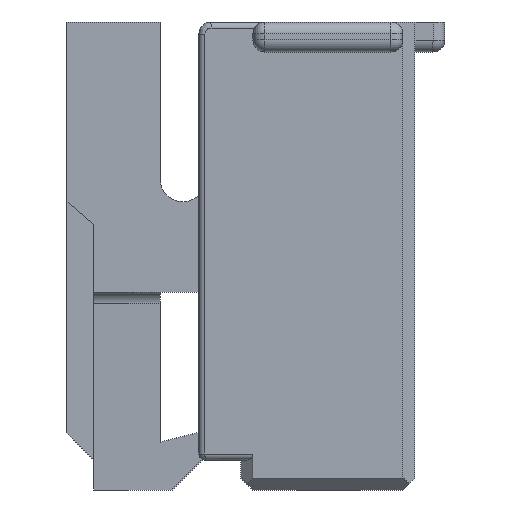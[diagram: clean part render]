
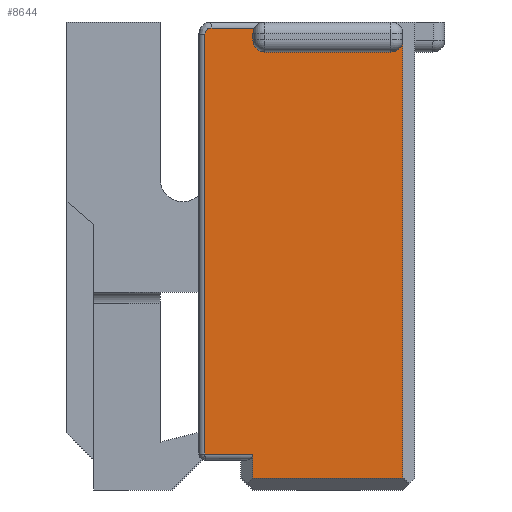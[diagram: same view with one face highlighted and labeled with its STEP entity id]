
A CAD part, front view. The second image highlights one B-rep face of the part: STEP entity #8644.
In plain terms, the highlighted planar face has unit normal (0, -1, 0).
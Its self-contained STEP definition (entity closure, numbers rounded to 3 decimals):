
#1616=DIRECTION('',(-1.,0.,0.));
#1617=VECTOR('',#1616,0.8);
#1618=CARTESIAN_POINT('',(-0.05,8.,-3.3));
#1619=LINE('',#1618,#1617);
#1631=DIRECTION('',(1.,0.,0.));
#1632=VECTOR('',#1631,2.5);
#1633=CARTESIAN_POINT('',(-0.05,8.,-3.7));
#1634=LINE('',#1633,#1632);
#1635=DIRECTION('',(0.,0.,-1.));
#1636=VECTOR('',#1635,0.4);
#1637=CARTESIAN_POINT('',(-0.05,8.,-3.3));
#1638=LINE('',#1637,#1636);
#1639=CARTESIAN_POINT('',(-0.75,8.,3.7));
#1640=DIRECTION('',(0.,-1.,0.));
#1641=DIRECTION('',(0.,0.,1.));
#1642=AXIS2_PLACEMENT_3D('',#1639,#1640,#1641);
#1644=CARTESIAN_POINT('',(0.15,8.,3.7));
#1645=DIRECTION('',(0.,1.,0.));
#1646=DIRECTION('',(-1.,0.,0.));
#1647=AXIS2_PLACEMENT_3D('',#1644,#1645,#1646);
#1649=CARTESIAN_POINT('',(0.15,8.,3.6));
#1650=DIRECTION('',(0.,1.,0.));
#1651=DIRECTION('',(0.,0.,-1.));
#1652=AXIS2_PLACEMENT_3D('',#1649,#1650,#1651);
#1654=DIRECTION('',(-1.,0.,0.));
#1655=VECTOR('',#1654,2.1);
#1656=CARTESIAN_POINT('',(2.25,8.,3.4));
#1657=LINE('',#1656,#1655);
#1658=CARTESIAN_POINT('',(2.25,8.,3.6));
#1659=DIRECTION('',(0.,1.,0.));
#1660=DIRECTION('',(1.,0.,0.));
#1661=AXIS2_PLACEMENT_3D('',#1658,#1659,#1660);
#1675=DIRECTION('',(0.,0.,-1.));
#1676=VECTOR('',#1675,7.3);
#1677=CARTESIAN_POINT('',(2.45,8.,3.6));
#1678=LINE('',#1677,#1676);
#1769=DIRECTION('',(0.,0.,-1.));
#1770=VECTOR('',#1769,0.1);
#1771=CARTESIAN_POINT('',(-0.05,8.,3.7));
#1772=LINE('',#1771,#1770);
#1781=DIRECTION('',(1.,0.,0.));
#1782=VECTOR('',#1781,0.727);
#1783=CARTESIAN_POINT('',(-0.75,8.,3.8));
#1784=LINE('',#1783,#1782);
#1817=DIRECTION('',(0.,0.,1.));
#1818=VECTOR('',#1817,7.);
#1819=CARTESIAN_POINT('',(-0.85,8.,-3.3));
#1820=LINE('',#1819,#1818);
#5649=CARTESIAN_POINT('',(2.45,8.,3.6));
#5650=CARTESIAN_POINT('',(2.45,8.,-3.7));
#5651=VERTEX_POINT('',#5649);
#5652=VERTEX_POINT('',#5650);
#5653=CARTESIAN_POINT('',(2.25,8.,3.4));
#5654=VERTEX_POINT('',#5653);
#5655=CARTESIAN_POINT('',(0.15,8.,3.4));
#5656=VERTEX_POINT('',#5655);
#5657=CARTESIAN_POINT('',(-0.05,8.,3.6));
#5658=VERTEX_POINT('',#5657);
#5659=CARTESIAN_POINT('',(-0.05,8.,3.7));
#5660=VERTEX_POINT('',#5659);
#5661=CARTESIAN_POINT('',(-0.023,8.,3.8));
#5662=VERTEX_POINT('',#5661);
#5663=CARTESIAN_POINT('',(-0.75,8.,3.8));
#5664=VERTEX_POINT('',#5663);
#5665=CARTESIAN_POINT('',(-0.85,8.,
3.7));
#5666=VERTEX_POINT('',#5665);
#5667=CARTESIAN_POINT('',(-0.85,8.,-3.3));
#5668=VERTEX_POINT('',#5667);
#5669=CARTESIAN_POINT('',(-0.05,8.,-3.3));
#5670=VERTEX_POINT('',#5669);
#5671=CARTESIAN_POINT('',(-0.05,8.,-3.7));
#5672=VERTEX_POINT('',#5671);
#8615=CARTESIAN_POINT('',(0.,8.,0.));
#8616=DIRECTION('',(0.,1.,0.));
#8617=DIRECTION('',(1.,0.,0.));
#8618=AXIS2_PLACEMENT_3D('',#8615,#8616,#8617);
#8619=PLANE('',#8618);
#8621=ORIENTED_EDGE('',*,*,#8620,.T.);
#8622=ORIENTED_EDGE('',*,*,#7908,.F.);
#8624=ORIENTED_EDGE('',*,*,#8623,.F.);
#8625=ORIENTED_EDGE('',*,*,#8605,.T.);
#8627=ORIENTED_EDGE('',*,*,#8626,.T.);
#8629=ORIENTED_EDGE('',*,*,#8628,.F.);
#8631=ORIENTED_EDGE('',*,*,#8630,.T.);
#8633=ORIENTED_EDGE('',*,*,#8632,.F.);
#8635=ORIENTED_EDGE('',*,*,#8634,.T.);
#8637=ORIENTED_EDGE('',*,*,#8636,.F.);
#8639=ORIENTED_EDGE('',*,*,#8638,.F.);
#8641=ORIENTED_EDGE('',*,*,#8640,.F.);
#8642=EDGE_LOOP('',(#8621,#8622,#8624,#8625,#8627,#8629,#8631,#8633,#8635,#8637,
#8639,#8641));
#8643=FACE_OUTER_BOUND('',#8642,.F.);
#8644=ADVANCED_FACE('',(#8643),#8619,.F.);
#1643=CIRCLE('',#1642,0.1);
#1648=CIRCLE('',#1647,0.2);
#1653=CIRCLE('',#1652,0.2);
#1662=CIRCLE('',#1661,0.2);
#7908=EDGE_CURVE('',#5672,#5652,#1634,.T.);
#8605=EDGE_CURVE('',#5670,#5668,#1619,.T.);
#8620=EDGE_CURVE('',#5651,#5652,#1678,.T.);
#8623=EDGE_CURVE('',#5670,#5672,#1638,.T.);
#8626=EDGE_CURVE('',#5668,#5666,#1820,.T.);
#8628=EDGE_CURVE('',#5664,#5666,#1643,.T.);
#8630=EDGE_CURVE('',#5664,#5662,#1784,.T.);
#8632=EDGE_CURVE('',#5660,#5662,#1648,.T.);
#8634=EDGE_CURVE('',#5660,#5658,#1772,.T.);
#8636=EDGE_CURVE('',#5656,#5658,#1653,.T.);
#8638=EDGE_CURVE('',#5654,#5656,#1657,.T.);
#8640=EDGE_CURVE('',#5651,#5654,#1662,.T.);
